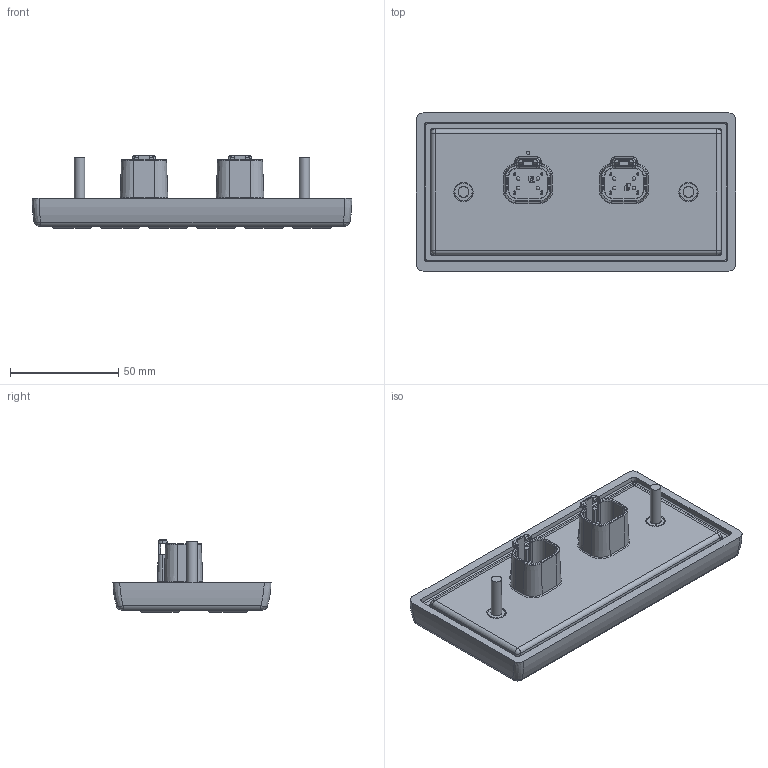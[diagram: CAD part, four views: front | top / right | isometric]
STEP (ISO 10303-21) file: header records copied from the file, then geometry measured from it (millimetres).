
FILE_DESCRIPTION (( 'STEP AP203' ), '1' );
FILE_NAME ('2x6.STEP', '2012-02-28T22:37:01', ( 'Tom Edwards' ), ( 'HED' ), 'SwSTEP 2.0', 'SolidWorks 2010', '' );
FILE_SCHEMA (( 'CONFIG_CONTROL_DESIGN' ));
Length unit declared in the file: inch
Products named in the file (5): 175-45-635; 2x6; 415-11-618; CAN Switch Backing Panel 2 X 6; 186-07-601
Assembly tree (12 placements, depth 2):
  2x6
    CAN Switch Backing Panel 2 X 6
    175-45-635  x8
    186-07-601
    415-11-618  x2
Bounding box: 147.9 x 73.18 x 33.73 mm (x, y, z)
Volume: 76892.8 mm3; surface area: 70661.8 mm2
Topology: 12 solids, 12 shells, 2007 faces, 4782 edges, 3066 vertices
Faces by surface type: plane 1115, cylinder 513, cone 128, bspline 111, torus 96, sphere 44
Full cylindrical faces by diameter (mm): 1.524 x8, 1.562 x8, 1.575 x8, 1.6 x1, 1.638 x8, 2.286 x2, 2.362 x12, 2.794 x46, 2.997 x23, 3.048 x8, 3.175 x4, 4.826 x2, 5.08 x2, 8.255 x1, 8.89 x12
Entity records: 56177 total; most frequent: CARTESIAN_POINT 13985, DIRECTION 8478, ORIENTED_EDGE 8276, EDGE_CURVE 4138, AXIS2_PLACEMENT_3D 2949, VERTEX_POINT 2764, LINE 2580, VECTOR 2580
